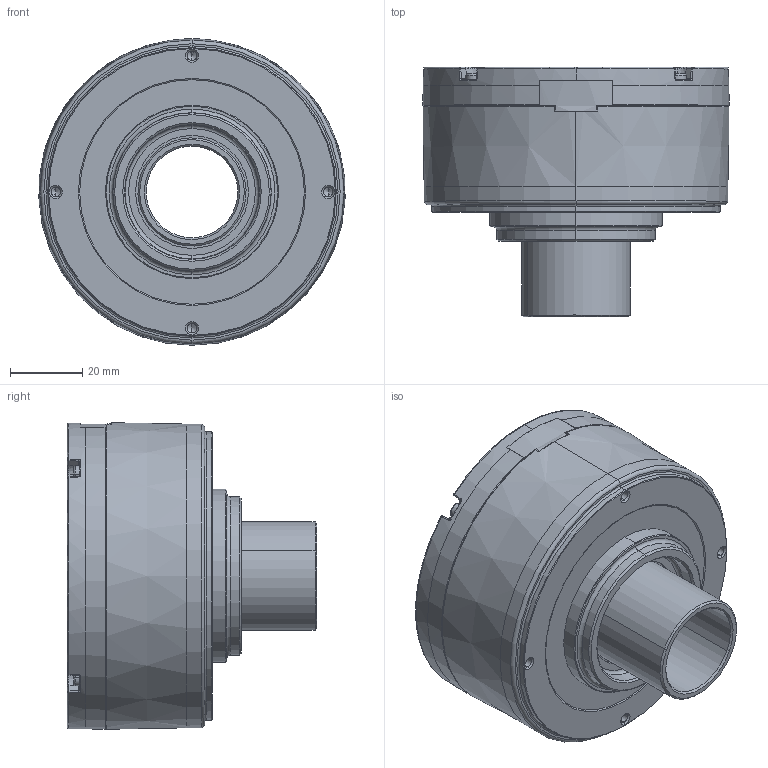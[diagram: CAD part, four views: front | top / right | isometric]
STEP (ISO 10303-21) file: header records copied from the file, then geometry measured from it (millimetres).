
FILE_DESCRIPTION (( 'STEP AP203' ), '1' );
FILE_NAME ('PMBA-150JHWC.STEP', '2021-11-08T06:33:56', ( '' ), ( '' ), 'SwSTEP 2.0', 'SolidWorks 2018', '' );
FILE_SCHEMA (( 'CONFIG_CONTROL_DESIGN' ));
Length unit declared in the file: millimetre
Products named in the file (6): XE-2021-0988-xx(グロメット); 601-1101-00(組立ねじ); XE-2021-0778-01(ブラケット F(加工)); XE-2021-0779-02(ブラケット R(加工)); XE-2020-3501-xx(回転子軸); PMBA-150JHWC
Assembly tree (8 placements, depth 2):
  PMBA-150JHWC
    XE-2021-0778-01(ブラケット F(加工))
    XE-2020-3501-xx(回転子軸)
    XE-2021-0779-02(ブラケット R(加工))
    XE-2021-0988-xx(グロメット)
    601-1101-00(組立ねじ)  x4
Bounding box: 84.93 x 69.2 x 84.96 mm (x, y, z)
Volume: 117497.7 mm3; surface area: 59835.6 mm2
Topology: 8 solids, 8 shells, 442 faces, 1055 edges, 629 vertices
Faces by surface type: cone 128, plane 125, cylinder 77, bspline 55, torus 53, sphere 4
Entity records: 13688 total; most frequent: CARTESIAN_POINT 4649, DIRECTION 1772, ORIENTED_EDGE 1742, EDGE_CURVE 871, AXIS2_PLACEMENT_3D 752, VERTEX_POINT 527, CIRCLE 420, EDGE_LOOP 412
